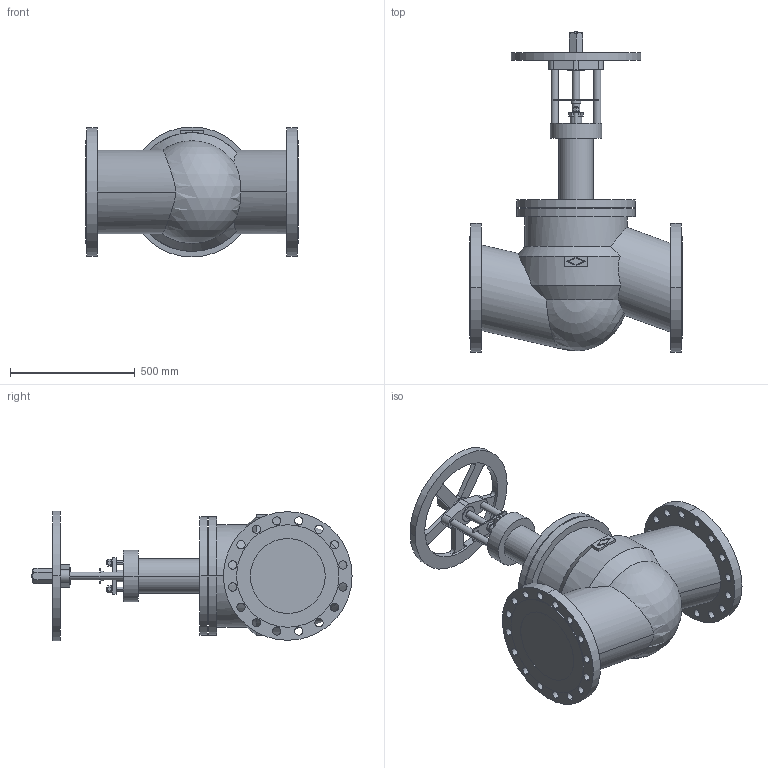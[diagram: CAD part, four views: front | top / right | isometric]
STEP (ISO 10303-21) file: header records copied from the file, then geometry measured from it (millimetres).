
FILE_DESCRIPTION(('Creo Elements/Direct Modeling STEP Export'),'2;1');
FILE_NAME('c000005011.stp','2012-09-19T12:00:40',(''),(''),'Creo Elements/Direct Modeling STEP processor for AP203 (Solid Model)','Creo Elements/Direct Modeling 17.0D 15-Jul-2011 (C) Parametric Technology GmbH','');
FILE_SCHEMA(('CONFIG_CONTROL_DESIGN'));
Length unit declared in the file: millimetre
Products named in the file (1): 1
Bounding box: 850 x 1281.98 x 520 mm (x, y, z)
Volume: 142038739.2 mm3; surface area: 3031514.5 mm2
Topology: 1 solids, 1 shells, 280 faces, 753 edges, 499 vertices
Faces by surface type: cylinder 158, plane 116, cone 5, sphere 1
Entity records: 8800 total; most frequent: CARTESIAN_POINT 1775, ORIENTED_EDGE 1502, DIRECTION 1366, EDGE_CURVE 751, VERTEX_POINT 499, AXIS2_PLACEMENT_3D 493, EDGE_LOOP 388, VECTOR 380
